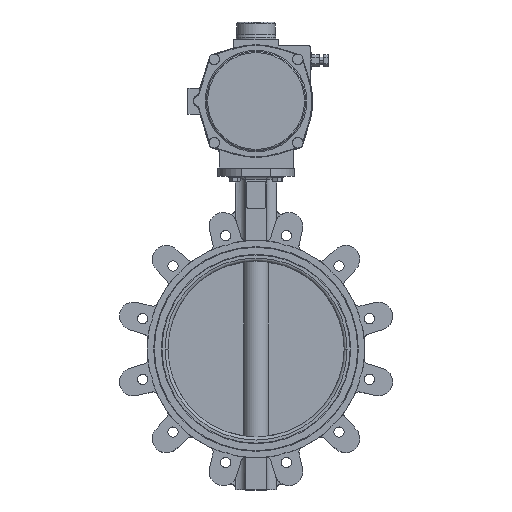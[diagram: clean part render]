
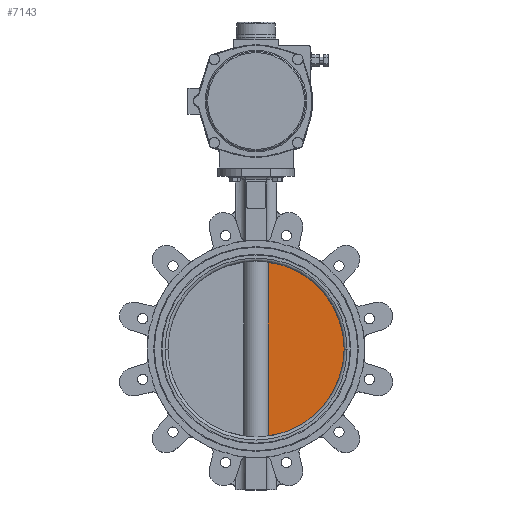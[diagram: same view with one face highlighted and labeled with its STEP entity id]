
A CAD part, top view. The second image highlights one B-rep face of the part: STEP entity #7143.
In plain terms, the highlighted planar face has unit normal (0, 0, 1).
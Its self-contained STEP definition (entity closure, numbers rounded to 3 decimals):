
#90 = DIRECTION ( 'NONE',  ( 0., -1., 0. ) ) ;
#276 = CARTESIAN_POINT ( 'NONE',  ( 21.166, 148.499, 6. ) ) ;
#427 = ORIENTED_EDGE ( 'NONE', *, *, #22822, .F. ) ;
#1041 = CIRCLE ( 'NONE', #17563, 150. ) ;
#2099 = CARTESIAN_POINT ( 'NONE',  ( 21.166, -148.499, 6. ) ) ;
#4656 = VERTEX_POINT ( 'NONE', #2099 ) ;
#7142 = CIRCLE ( 'NONE', #21286, 150. ) ;
#7143 = ADVANCED_FACE ( 'NONE', ( #10359 ), #11677, .F. ) ;
#7491 = ORIENTED_EDGE ( 'NONE', *, *, #13343, .F. ) ;
#8365 = CARTESIAN_POINT ( 'NONE',  ( 150., 0., 6. ) ) ;
#8474 = DIRECTION ( 'NONE',  ( -1., 0., 0. ) ) ;
#9789 = LINE ( 'NONE', #23442, #12446 ) ;
#10359 = FACE_OUTER_BOUND ( 'NONE', #17263, .T. ) ;
#10995 = VERTEX_POINT ( 'NONE', #8365 ) ;
#11677 = PLANE ( 'NONE',  #22548 ) ;
#12446 = VECTOR ( 'NONE', #90, 1000. ) ;
#13179 = VERTEX_POINT ( 'NONE', #276 ) ;
#13343 = EDGE_CURVE ( 'NONE', #10995, #4656, #7142, .T. ) ;
#14030 = DIRECTION ( 'NONE',  ( 0., 0., -1. ) ) ;
#14150 = CARTESIAN_POINT ( 'NONE',  ( 21.166, 338.001, 6. ) ) ;
#14171 = ORIENTED_EDGE ( 'NONE', *, *, #24889, .T. ) ;
#16062 = DIRECTION ( 'NONE',  ( -1., 0., 0. ) ) ;
#17237 = CARTESIAN_POINT ( 'NONE',  ( 0., 0., 6. ) ) ;
#17263 = EDGE_LOOP ( 'NONE', ( #427, #14171, #7491 ) ) ;
#17563 = AXIS2_PLACEMENT_3D ( 'NONE', #17237, #19271, #20908 ) ;
#19271 = DIRECTION ( 'NONE',  ( 0., 0., -1. ) ) ;
#20095 = DIRECTION ( 'NONE',  ( 0., 0., -1. ) ) ;
#20908 = DIRECTION ( 'NONE',  ( -1., 0., 0. ) ) ;
#21286 = AXIS2_PLACEMENT_3D ( 'NONE', #21982, #20095, #8474 ) ;
#21982 = CARTESIAN_POINT ( 'NONE',  ( 0., 0., 6. ) ) ;
#22548 = AXIS2_PLACEMENT_3D ( 'NONE', #14150, #14030, #16062 ) ;
#22822 = EDGE_CURVE ( 'NONE', #13179, #10995, #1041, .T. ) ;
#23442 = CARTESIAN_POINT ( 'NONE',  ( 21.166, 338.001, 6. ) ) ;
#24889 = EDGE_CURVE ( 'NONE', #13179, #4656, #9789, .T. ) ;
